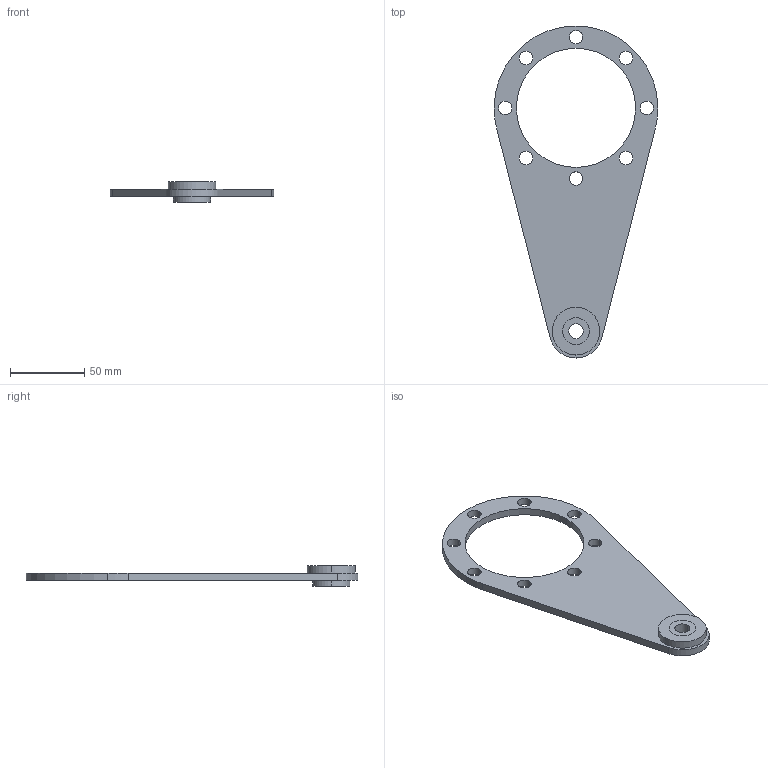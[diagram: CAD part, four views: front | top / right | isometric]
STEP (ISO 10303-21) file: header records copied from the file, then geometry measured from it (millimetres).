
FILE_DESCRIPTION (( 'STEP AP203' ), '1' );
FILE_NAME ('CALM63-TA.STEP', '2014-09-02T03:38:44', ( 'user' ), ( '' ), 'SwSTEP 2.0', 'SolidWorks 2012', '' );
FILE_SCHEMA (( 'CONFIG_CONTROL_DESIGN' ));
Length unit declared in the file: millimetre
Products named in the file (1): CALM63-TA
Bounding box: 110 x 223 x 14 mm (x, y, z)
Volume: 59935 mm3; surface area: 29783 mm2
Topology: 2 solids, 2 shells, 40 faces, 102 edges, 68 vertices
Faces by surface type: cylinder 32, plane 8
Entity records: 1369 total; most frequent: DIRECTION 248, CARTESIAN_POINT 211, ORIENTED_EDGE 204, AXIS2_PLACEMENT_3D 105, EDGE_CURVE 102, VERTEX_POINT 68, CIRCLE 64, EDGE_LOOP 64
